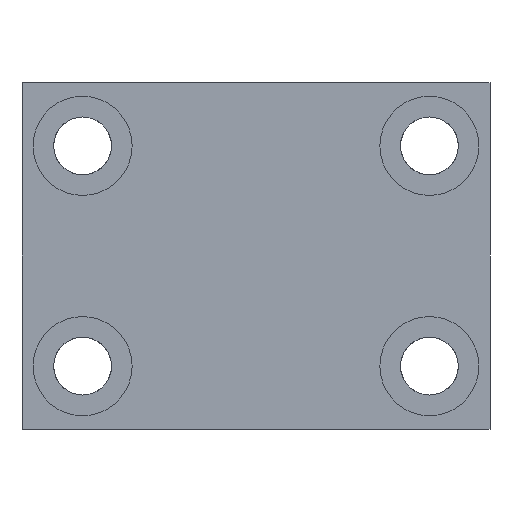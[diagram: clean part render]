
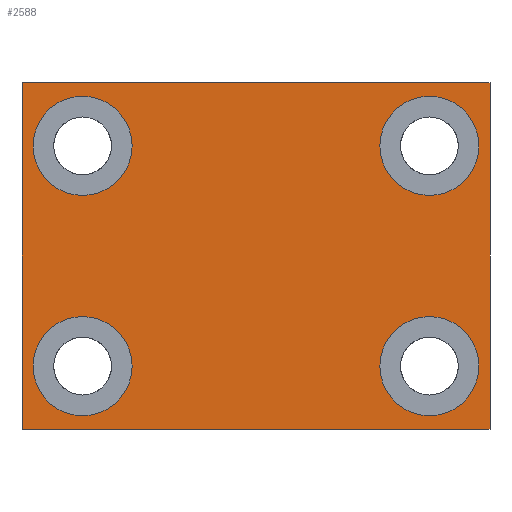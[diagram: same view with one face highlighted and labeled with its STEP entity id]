
A CAD part, front view. The second image highlights one B-rep face of the part: STEP entity #2588.
In plain terms, the highlighted planar face has unit normal (0, -1, 0).
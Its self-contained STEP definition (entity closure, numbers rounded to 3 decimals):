
#7 = FACE_BOUND ( 'NONE', #3632, .T. ) ;
#142 = DIRECTION ( 'NONE',  ( 0., -1., 0. ) ) ;
#199 = CARTESIAN_POINT ( 'NONE',  ( -31.5, 0., 20. ) ) ;
#223 = EDGE_LOOP ( 'NONE', ( #413, #1274 ) ) ;
#234 = CARTESIAN_POINT ( 'NONE',  ( 31.5, 0., 11. ) ) ;
#251 = VECTOR ( 'NONE', #2700, 1000. ) ;
#320 = EDGE_CURVE ( 'NONE', #2544, #964, #2212, .T. ) ;
#360 = VERTEX_POINT ( 'NONE', #2351 ) ;
#403 = LINE ( 'NONE', #1563, #3072 ) ;
#413 = ORIENTED_EDGE ( 'NONE', *, *, #2607, .F. ) ;
#458 = CARTESIAN_POINT ( 'NONE',  ( 31.5, 0., 20. ) ) ;
#520 = DIRECTION ( 'NONE',  ( 0., 1., 0. ) ) ;
#522 = VERTEX_POINT ( 'NONE', #3362 ) ;
#538 = DIRECTION ( 'NONE',  ( 0., 0., -1. ) ) ;
#615 = CIRCLE ( 'NONE', #2443, 9. ) ;
#714 = EDGE_CURVE ( 'NONE', #522, #2025, #1837, .T. ) ;
#737 = ORIENTED_EDGE ( 'NONE', *, *, #1175, .F. ) ;
#743 = AXIS2_PLACEMENT_3D ( 'NONE', #3119, #3436, #3463 ) ;
#748 = CARTESIAN_POINT ( 'NONE',  ( -31.5, 0., -29. ) ) ;
#790 = EDGE_LOOP ( 'NONE', ( #3509, #1165 ) ) ;
#811 = FACE_BOUND ( 'NONE', #223, .T. ) ;
#819 = CIRCLE ( 'NONE', #1997, 9. ) ;
#879 = EDGE_CURVE ( 'NONE', #964, #3922, #403, .T. ) ;
#889 = CARTESIAN_POINT ( 'NONE',  ( 31.5, 0., -20. ) ) ;
#897 = DIRECTION ( 'NONE',  ( -1., 0., 0. ) ) ;
#902 = VERTEX_POINT ( 'NONE', #3760 ) ;
#950 = CARTESIAN_POINT ( 'NONE',  ( -42.5, 0., -31.5 ) ) ;
#964 = VERTEX_POINT ( 'NONE', #3343 ) ;
#987 = CIRCLE ( 'NONE', #2747, 9. ) ;
#1165 = ORIENTED_EDGE ( 'NONE', *, *, #1821, .F. ) ;
#1175 = EDGE_CURVE ( 'NONE', #1797, #2544, #3721, .T. ) ;
#1230 = DIRECTION ( 'NONE',  ( 0., 0., -1. ) ) ;
#1234 = DIRECTION ( 'NONE',  ( 0., 0., -1. ) ) ;
#1240 = CARTESIAN_POINT ( 'NONE',  ( -42.5, 0., -31.5 ) ) ;
#1274 = ORIENTED_EDGE ( 'NONE', *, *, #714, .F. ) ;
#1323 = CARTESIAN_POINT ( 'NONE',  ( -42.5, 0., 31.5 ) ) ;
#1451 = EDGE_CURVE ( 'NONE', #2162, #360, #987, .T. ) ;
#1541 = CARTESIAN_POINT ( 'NONE',  ( -31.5, 0., -20. ) ) ;
#1563 = CARTESIAN_POINT ( 'NONE',  ( 42.5, 0., -31.5 ) ) ;
#1614 = CIRCLE ( 'NONE', #3989, 9. ) ;
#1622 = CARTESIAN_POINT ( 'NONE',  ( -31.5, 0., -20. ) ) ;
#1635 = VERTEX_POINT ( 'NONE', #2869 ) ;
#1707 = FACE_BOUND ( 'NONE', #790, .T. ) ;
#1737 = ORIENTED_EDGE ( 'NONE', *, *, #2989, .F. ) ;
#1762 = EDGE_CURVE ( 'NONE', #1635, #2407, #615, .T. ) ;
#1797 = VERTEX_POINT ( 'NONE', #950 ) ;
#1821 = EDGE_CURVE ( 'NONE', #360, #2162, #1614, .T. ) ;
#1837 = CIRCLE ( 'NONE', #743, 9. ) ;
#1851 = ORIENTED_EDGE ( 'NONE', *, *, #2637, .F. ) ;
#1881 = DIRECTION ( 'NONE',  ( 0., 0., -1. ) ) ;
#1891 = AXIS2_PLACEMENT_3D ( 'NONE', #2173, #142, #2502 ) ;
#1973 = DIRECTION ( 'NONE',  ( 0., 0., -1. ) ) ;
#1997 = AXIS2_PLACEMENT_3D ( 'NONE', #889, #3224, #1234 ) ;
#2000 = CARTESIAN_POINT ( 'NONE',  ( 31.5, 0., 20. ) ) ;
#2025 = VERTEX_POINT ( 'NONE', #3512 ) ;
#2109 = CARTESIAN_POINT ( 'NONE',  ( 42.5, 0., -31.5 ) ) ;
#2158 = EDGE_CURVE ( 'NONE', #3922, #1797, #3609, .T. ) ;
#2162 = VERTEX_POINT ( 'NONE', #234 ) ;
#2173 = CARTESIAN_POINT ( 'NONE',  ( 31.5, 0., -20. ) ) ;
#2212 = LINE ( 'NONE', #1323, #3782 ) ;
#2220 = AXIS2_PLACEMENT_3D ( 'NONE', #2539, #520, #2862 ) ;
#2244 = CIRCLE ( 'NONE', #1891, 9. ) ;
#2329 = DIRECTION ( 'NONE',  ( 0., 0., -1. ) ) ;
#2351 = CARTESIAN_POINT ( 'NONE',  ( 31.5, 0., 29. ) ) ;
#2407 = VERTEX_POINT ( 'NONE', #748 ) ;
#2430 = AXIS2_PLACEMENT_3D ( 'NONE', #199, #2555, #538 ) ;
#2443 = AXIS2_PLACEMENT_3D ( 'NONE', #1622, #3945, #1973 ) ;
#2502 = DIRECTION ( 'NONE',  ( 0., 0., -1. ) ) ;
#2539 = CARTESIAN_POINT ( 'NONE',  ( 0., 0., 0. ) ) ;
#2544 = VERTEX_POINT ( 'NONE', #3507 ) ;
#2555 = DIRECTION ( 'NONE',  ( 0., -1., 0. ) ) ;
#2588 = ADVANCED_FACE ( 'NONE', ( #3480, #7, #1707, #811, #4251 ), #4175, .F. ) ;
#2607 = EDGE_CURVE ( 'NONE', #2025, #522, #3610, .T. ) ;
#2637 = EDGE_CURVE ( 'NONE', #902, #3324, #819, .T. ) ;
#2700 = DIRECTION ( 'NONE',  ( 0., 0., 1. ) ) ;
#2719 = CARTESIAN_POINT ( 'NONE',  ( -42.5, 0., -31.5 ) ) ;
#2732 = ORIENTED_EDGE ( 'NONE', *, *, #1762, .F. ) ;
#2747 = AXIS2_PLACEMENT_3D ( 'NONE', #458, #3823, #4119 ) ;
#2862 = DIRECTION ( 'NONE',  ( 0., 0., 1. ) ) ;
#2869 = CARTESIAN_POINT ( 'NONE',  ( -31.5, 0., -11. ) ) ;
#2989 = EDGE_CURVE ( 'NONE', #3324, #902, #2244, .T. ) ;
#3069 = EDGE_CURVE ( 'NONE', #2407, #1635, #3819, .T. ) ;
#3072 = VECTOR ( 'NONE', #1230, 1000. ) ;
#3119 = CARTESIAN_POINT ( 'NONE',  ( -31.5, 0., 20. ) ) ;
#3135 = ORIENTED_EDGE ( 'NONE', *, *, #3069, .F. ) ;
#3198 = ORIENTED_EDGE ( 'NONE', *, *, #879, .F. ) ;
#3210 = EDGE_LOOP ( 'NONE', ( #3135, #2732 ) ) ;
#3224 = DIRECTION ( 'NONE',  ( 0., -1., 0. ) ) ;
#3302 = ORIENTED_EDGE ( 'NONE', *, *, #2158, .F. ) ;
#3324 = VERTEX_POINT ( 'NONE', #3701 ) ;
#3343 = CARTESIAN_POINT ( 'NONE',  ( 42.5, 0., 31.5 ) ) ;
#3362 = CARTESIAN_POINT ( 'NONE',  ( -31.5, 0., 29. ) ) ;
#3395 = EDGE_LOOP ( 'NONE', ( #3198, #4275, #737, #3302 ) ) ;
#3436 = DIRECTION ( 'NONE',  ( 0., -1., 0. ) ) ;
#3463 = DIRECTION ( 'NONE',  ( 0., 0., -1. ) ) ;
#3480 = FACE_BOUND ( 'NONE', #3210, .T. ) ;
#3485 = VECTOR ( 'NONE', #897, 1000. ) ;
#3507 = CARTESIAN_POINT ( 'NONE',  ( -42.5, 0., 31.5 ) ) ;
#3509 = ORIENTED_EDGE ( 'NONE', *, *, #1451, .F. ) ;
#3512 = CARTESIAN_POINT ( 'NONE',  ( -31.5, 0., 11. ) ) ;
#3609 = LINE ( 'NONE', #1240, #3485 ) ;
#3610 = CIRCLE ( 'NONE', #2430, 9. ) ;
#3632 = EDGE_LOOP ( 'NONE', ( #1851, #1737 ) ) ;
#3680 = AXIS2_PLACEMENT_3D ( 'NONE', #1541, #3872, #1881 ) ;
#3701 = CARTESIAN_POINT ( 'NONE',  ( 31.5, 0., -11. ) ) ;
#3721 = LINE ( 'NONE', #2719, #251 ) ;
#3760 = CARTESIAN_POINT ( 'NONE',  ( 31.5, 0., -29. ) ) ;
#3782 = VECTOR ( 'NONE', #4303, 1000. ) ;
#3819 = CIRCLE ( 'NONE', #3680, 9. ) ;
#3823 = DIRECTION ( 'NONE',  ( 0., -1., 0. ) ) ;
#3872 = DIRECTION ( 'NONE',  ( 0., -1., 0. ) ) ;
#3922 = VERTEX_POINT ( 'NONE', #2109 ) ;
#3945 = DIRECTION ( 'NONE',  ( 0., -1., 0. ) ) ;
#3989 = AXIS2_PLACEMENT_3D ( 'NONE', #2000, #4296, #2329 ) ;
#4119 = DIRECTION ( 'NONE',  ( 0., 0., -1. ) ) ;
#4175 = PLANE ( 'NONE',  #2220 ) ;
#4251 = FACE_OUTER_BOUND ( 'NONE', #3395, .T. ) ;
#4275 = ORIENTED_EDGE ( 'NONE', *, *, #320, .F. ) ;
#4296 = DIRECTION ( 'NONE',  ( 0., -1., 0. ) ) ;
#4303 = DIRECTION ( 'NONE',  ( 1., 0., 0. ) ) ;
